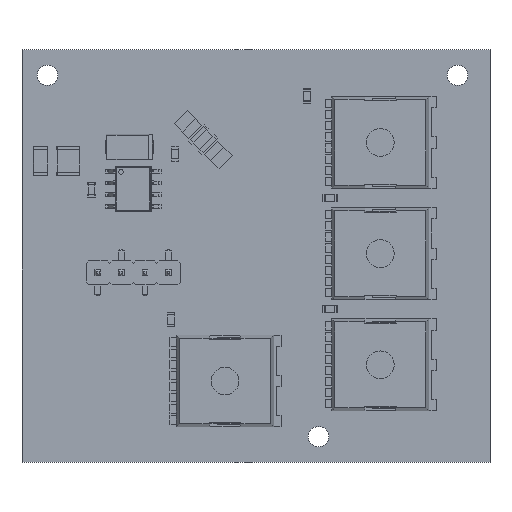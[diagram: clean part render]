
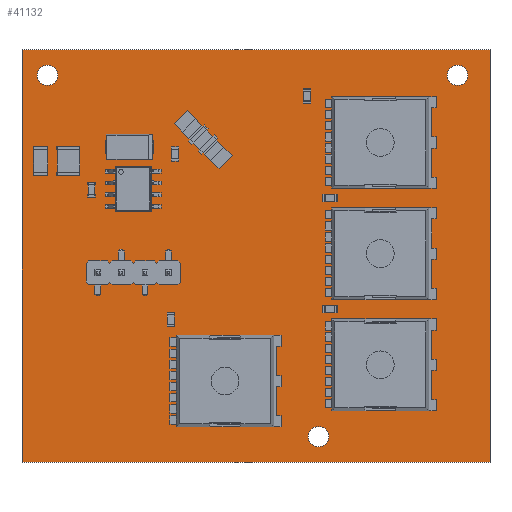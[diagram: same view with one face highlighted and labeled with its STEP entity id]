
A CAD part, top view. The second image highlights one B-rep face of the part: STEP entity #41132.
In plain terms, the highlighted planar face has unit normal (0, 0, 1).
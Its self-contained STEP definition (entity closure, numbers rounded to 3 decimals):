
#40752 = VERTEX_POINT('',#40753);
#40753 = CARTESIAN_POINT('',(164.5,-151.5,1.6));
#40760 = PLANE('',#40761);
#40761 = AXIS2_PLACEMENT_3D('',#40762,#40763,#40764);
#40762 = CARTESIAN_POINT('',(164.5,-151.5,0.));
#40763 = DIRECTION('',(0.,1.,0.));
#40764 = DIRECTION('',(1.,0.,0.));
#40772 = PLANE('',#40773);
#40773 = AXIS2_PLACEMENT_3D('',#40774,#40775,#40776);
#40774 = CARTESIAN_POINT('',(164.5,-107.,0.));
#40775 = DIRECTION('',(1.,0.,0.));
#40776 = DIRECTION('',(0.,-1.,0.));
#40784 = EDGE_CURVE('',#40752,#40785,#40787,.T.);
#40785 = VERTEX_POINT('',#40786);
#40786 = CARTESIAN_POINT('',(215.,-151.5,1.6));
#40787 = SURFACE_CURVE('',#40788,(#40792,#40799),.PCURVE_S1.);
#40788 = LINE('',#40789,#40790);
#40789 = CARTESIAN_POINT('',(164.5,-151.5,1.6));
#40790 = VECTOR('',#40791,1.);
#40791 = DIRECTION('',(1.,0.,0.));
#40792 = PCURVE('',#40760,#40793);
#40793 = DEFINITIONAL_REPRESENTATION('',(#40794),#40798);
#40794 = LINE('',#40795,#40796);
#40795 = CARTESIAN_POINT('',(0.,-1.6));
#40796 = VECTOR('',#40797,1.);
#40797 = DIRECTION('',(1.,0.));
#40798 = ( GEOMETRIC_REPRESENTATION_CONTEXT(2) 
PARAMETRIC_REPRESENTATION_CONTEXT() REPRESENTATION_CONTEXT('2D SPACE',''
  ) );
#40799 = PCURVE('',#40800,#40805);
#40800 = PLANE('',#40801);
#40801 = AXIS2_PLACEMENT_3D('',#40802,#40803,#40804);
#40802 = CARTESIAN_POINT('',(189.75,-129.25,1.6));
#40803 = DIRECTION('',(0.,0.,1.));
#40804 = DIRECTION('',(1.,0.,0.));
#40805 = DEFINITIONAL_REPRESENTATION('',(#40806),#40810);
#40806 = LINE('',#40807,#40808);
#40807 = CARTESIAN_POINT('',(-25.25,-22.25));
#40808 = VECTOR('',#40809,1.);
#40809 = DIRECTION('',(1.,0.));
#40810 = ( GEOMETRIC_REPRESENTATION_CONTEXT(2) 
PARAMETRIC_REPRESENTATION_CONTEXT() REPRESENTATION_CONTEXT('2D SPACE',''
  ) );
#40828 = PLANE('',#40829);
#40829 = AXIS2_PLACEMENT_3D('',#40830,#40831,#40832);
#40830 = CARTESIAN_POINT('',(215.,-151.5,0.));
#40831 = DIRECTION('',(-1.,0.,0.));
#40832 = DIRECTION('',(0.,1.,0.));
#40872 = VERTEX_POINT('',#40873);
#40873 = CARTESIAN_POINT('',(164.5,-107.,1.6));
#40887 = PLANE('',#40888);
#40888 = AXIS2_PLACEMENT_3D('',#40889,#40890,#40891);
#40889 = CARTESIAN_POINT('',(215.,-107.,0.));
#40890 = DIRECTION('',(0.,-1.,0.));
#40891 = DIRECTION('',(-1.,0.,0.));
#40899 = EDGE_CURVE('',#40872,#40752,#40900,.T.);
#40900 = SURFACE_CURVE('',#40901,(#40905,#40912),.PCURVE_S1.);
#40901 = LINE('',#40902,#40903);
#40902 = CARTESIAN_POINT('',(164.5,-107.,1.6));
#40903 = VECTOR('',#40904,1.);
#40904 = DIRECTION('',(0.,-1.,0.));
#40905 = PCURVE('',#40772,#40906);
#40906 = DEFINITIONAL_REPRESENTATION('',(#40907),#40911);
#40907 = LINE('',#40908,#40909);
#40908 = CARTESIAN_POINT('',(0.,-1.6));
#40909 = VECTOR('',#40910,1.);
#40910 = DIRECTION('',(1.,0.));
#40911 = ( GEOMETRIC_REPRESENTATION_CONTEXT(2) 
PARAMETRIC_REPRESENTATION_CONTEXT() REPRESENTATION_CONTEXT('2D SPACE',''
  ) );
#40912 = PCURVE('',#40800,#40913);
#40913 = DEFINITIONAL_REPRESENTATION('',(#40914),#40918);
#40914 = LINE('',#40915,#40916);
#40915 = CARTESIAN_POINT('',(-25.25,22.25));
#40916 = VECTOR('',#40917,1.);
#40917 = DIRECTION('',(0.,-1.));
#40918 = ( GEOMETRIC_REPRESENTATION_CONTEXT(2) 
PARAMETRIC_REPRESENTATION_CONTEXT() REPRESENTATION_CONTEXT('2D SPACE',''
  ) );
#40946 = EDGE_CURVE('',#40785,#40947,#40949,.T.);
#40947 = VERTEX_POINT('',#40948);
#40948 = CARTESIAN_POINT('',(215.,-107.,1.6));
#40949 = SURFACE_CURVE('',#40950,(#40954,#40961),.PCURVE_S1.);
#40950 = LINE('',#40951,#40952);
#40951 = CARTESIAN_POINT('',(215.,-151.5,1.6));
#40952 = VECTOR('',#40953,1.);
#40953 = DIRECTION('',(0.,1.,0.));
#40954 = PCURVE('',#40828,#40955);
#40955 = DEFINITIONAL_REPRESENTATION('',(#40956),#40960);
#40956 = LINE('',#40957,#40958);
#40957 = CARTESIAN_POINT('',(0.,-1.6));
#40958 = VECTOR('',#40959,1.);
#40959 = DIRECTION('',(1.,0.));
#40960 = ( GEOMETRIC_REPRESENTATION_CONTEXT(2) 
PARAMETRIC_REPRESENTATION_CONTEXT() REPRESENTATION_CONTEXT('2D SPACE',''
  ) );
#40961 = PCURVE('',#40800,#40962);
#40962 = DEFINITIONAL_REPRESENTATION('',(#40963),#40967);
#40963 = LINE('',#40964,#40965);
#40964 = CARTESIAN_POINT('',(25.25,-22.25));
#40965 = VECTOR('',#40966,1.);
#40966 = DIRECTION('',(0.,1.));
#40967 = ( GEOMETRIC_REPRESENTATION_CONTEXT(2) 
PARAMETRIC_REPRESENTATION_CONTEXT() REPRESENTATION_CONTEXT('2D SPACE',''
  ) );
#41059 = CYLINDRICAL_SURFACE('',#41060,1.1);
#41060 = AXIS2_PLACEMENT_3D('',#41061,#41062,#41063);
#41061 = CARTESIAN_POINT('',(196.5,-148.75,-0.8));
#41062 = DIRECTION('',(0.,0.,1.));
#41063 = DIRECTION('',(1.,0.,0.));
#41090 = CYLINDRICAL_SURFACE('',#41091,1.1);
#41091 = AXIS2_PLACEMENT_3D('',#41092,#41093,#41094);
#41092 = CARTESIAN_POINT('',(167.25,-109.75,-0.8));
#41093 = DIRECTION('',(0.,0.,1.));
#41094 = DIRECTION('',(1.,0.,0.));
#41121 = CYLINDRICAL_SURFACE('',#41122,1.1);
#41122 = AXIS2_PLACEMENT_3D('',#41123,#41124,#41125);
#41123 = CARTESIAN_POINT('',(211.5,-109.75,-0.8));
#41124 = DIRECTION('',(0.,0.,1.));
#41125 = DIRECTION('',(1.,0.,0.));
#41132 = ADVANCED_FACE('',(#41133,#41159,#41185,#41211),#40800,.T.);
#41133 = FACE_BOUND('',#41134,.T.);
#41134 = EDGE_LOOP('',(#41135,#41136,#41137,#41158));
#41135 = ORIENTED_EDGE('',*,*,#40784,.T.);
#41136 = ORIENTED_EDGE('',*,*,#40946,.T.);
#41137 = ORIENTED_EDGE('',*,*,#41138,.T.);
#41138 = EDGE_CURVE('',#40947,#40872,#41139,.T.);
#41139 = SURFACE_CURVE('',#41140,(#41144,#41151),.PCURVE_S1.);
#41140 = LINE('',#41141,#41142);
#41141 = CARTESIAN_POINT('',(215.,-107.,1.6));
#41142 = VECTOR('',#41143,1.);
#41143 = DIRECTION('',(-1.,0.,0.));
#41144 = PCURVE('',#40800,#41145);
#41145 = DEFINITIONAL_REPRESENTATION('',(#41146),#41150);
#41146 = LINE('',#41147,#41148);
#41147 = CARTESIAN_POINT('',(25.25,22.25));
#41148 = VECTOR('',#41149,1.);
#41149 = DIRECTION('',(-1.,0.));
#41150 = ( GEOMETRIC_REPRESENTATION_CONTEXT(2) 
PARAMETRIC_REPRESENTATION_CONTEXT() REPRESENTATION_CONTEXT('2D SPACE',''
  ) );
#41151 = PCURVE('',#40887,#41152);
#41152 = DEFINITIONAL_REPRESENTATION('',(#41153),#41157);
#41153 = LINE('',#41154,#41155);
#41154 = CARTESIAN_POINT('',(0.,-1.6));
#41155 = VECTOR('',#41156,1.);
#41156 = DIRECTION('',(1.,0.));
#41157 = ( GEOMETRIC_REPRESENTATION_CONTEXT(2) 
PARAMETRIC_REPRESENTATION_CONTEXT() REPRESENTATION_CONTEXT('2D SPACE',''
  ) );
#41158 = ORIENTED_EDGE('',*,*,#40899,.T.);
#41159 = FACE_BOUND('',#41160,.T.);
#41160 = EDGE_LOOP('',(#41161));
#41161 = ORIENTED_EDGE('',*,*,#41162,.F.);
#41162 = EDGE_CURVE('',#41163,#41163,#41165,.T.);
#41163 = VERTEX_POINT('',#41164);
#41164 = CARTESIAN_POINT('',(212.6,-109.75,1.6));
#41165 = SURFACE_CURVE('',#41166,(#41171,#41178),.PCURVE_S1.);
#41166 = CIRCLE('',#41167,1.1);
#41167 = AXIS2_PLACEMENT_3D('',#41168,#41169,#41170);
#41168 = CARTESIAN_POINT('',(211.5,-109.75,1.6));
#41169 = DIRECTION('',(0.,0.,1.));
#41170 = DIRECTION('',(1.,0.,0.));
#41171 = PCURVE('',#40800,#41172);
#41172 = DEFINITIONAL_REPRESENTATION('',(#41173),#41177);
#41173 = CIRCLE('',#41174,1.1);
#41174 = AXIS2_PLACEMENT_2D('',#41175,#41176);
#41175 = CARTESIAN_POINT('',(21.75,19.5));
#41176 = DIRECTION('',(1.,0.));
#41177 = ( GEOMETRIC_REPRESENTATION_CONTEXT(2) 
PARAMETRIC_REPRESENTATION_CONTEXT() REPRESENTATION_CONTEXT('2D SPACE',''
  ) );
#41178 = PCURVE('',#41121,#41179);
#41179 = DEFINITIONAL_REPRESENTATION('',(#41180),#41184);
#41180 = LINE('',#41181,#41182);
#41181 = CARTESIAN_POINT('',(0.,2.4));
#41182 = VECTOR('',#41183,1.);
#41183 = DIRECTION('',(1.,0.));
#41184 = ( GEOMETRIC_REPRESENTATION_CONTEXT(2) 
PARAMETRIC_REPRESENTATION_CONTEXT() REPRESENTATION_CONTEXT('2D SPACE',''
  ) );
#41185 = FACE_BOUND('',#41186,.T.);
#41186 = EDGE_LOOP('',(#41187));
#41187 = ORIENTED_EDGE('',*,*,#41188,.F.);
#41188 = EDGE_CURVE('',#41189,#41189,#41191,.T.);
#41189 = VERTEX_POINT('',#41190);
#41190 = CARTESIAN_POINT('',(197.6,-148.75,1.6));
#41191 = SURFACE_CURVE('',#41192,(#41197,#41204),.PCURVE_S1.);
#41192 = CIRCLE('',#41193,1.1);
#41193 = AXIS2_PLACEMENT_3D('',#41194,#41195,#41196);
#41194 = CARTESIAN_POINT('',(196.5,-148.75,1.6));
#41195 = DIRECTION('',(0.,0.,1.));
#41196 = DIRECTION('',(1.,0.,0.));
#41197 = PCURVE('',#40800,#41198);
#41198 = DEFINITIONAL_REPRESENTATION('',(#41199),#41203);
#41199 = CIRCLE('',#41200,1.1);
#41200 = AXIS2_PLACEMENT_2D('',#41201,#41202);
#41201 = CARTESIAN_POINT('',(6.75,-19.5));
#41202 = DIRECTION('',(1.,0.));
#41203 = ( GEOMETRIC_REPRESENTATION_CONTEXT(2) 
PARAMETRIC_REPRESENTATION_CONTEXT() REPRESENTATION_CONTEXT('2D SPACE',''
  ) );
#41204 = PCURVE('',#41059,#41205);
#41205 = DEFINITIONAL_REPRESENTATION('',(#41206),#41210);
#41206 = LINE('',#41207,#41208);
#41207 = CARTESIAN_POINT('',(0.,2.4));
#41208 = VECTOR('',#41209,1.);
#41209 = DIRECTION('',(1.,0.));
#41210 = ( GEOMETRIC_REPRESENTATION_CONTEXT(2) 
PARAMETRIC_REPRESENTATION_CONTEXT() REPRESENTATION_CONTEXT('2D SPACE',''
  ) );
#41211 = FACE_BOUND('',#41212,.T.);
#41212 = EDGE_LOOP('',(#41213));
#41213 = ORIENTED_EDGE('',*,*,#41214,.F.);
#41214 = EDGE_CURVE('',#41215,#41215,#41217,.T.);
#41215 = VERTEX_POINT('',#41216);
#41216 = CARTESIAN_POINT('',(168.35,-109.75,1.6));
#41217 = SURFACE_CURVE('',#41218,(#41223,#41230),.PCURVE_S1.);
#41218 = CIRCLE('',#41219,1.1);
#41219 = AXIS2_PLACEMENT_3D('',#41220,#41221,#41222);
#41220 = CARTESIAN_POINT('',(167.25,-109.75,1.6));
#41221 = DIRECTION('',(0.,0.,1.));
#41222 = DIRECTION('',(1.,0.,0.));
#41223 = PCURVE('',#40800,#41224);
#41224 = DEFINITIONAL_REPRESENTATION('',(#41225),#41229);
#41225 = CIRCLE('',#41226,1.1);
#41226 = AXIS2_PLACEMENT_2D('',#41227,#41228);
#41227 = CARTESIAN_POINT('',(-22.5,19.5));
#41228 = DIRECTION('',(1.,0.));
#41229 = ( GEOMETRIC_REPRESENTATION_CONTEXT(2) 
PARAMETRIC_REPRESENTATION_CONTEXT() REPRESENTATION_CONTEXT('2D SPACE',''
  ) );
#41230 = PCURVE('',#41090,#41231);
#41231 = DEFINITIONAL_REPRESENTATION('',(#41232),#41236);
#41232 = LINE('',#41233,#41234);
#41233 = CARTESIAN_POINT('',(0.,2.4));
#41234 = VECTOR('',#41235,1.);
#41235 = DIRECTION('',(1.,0.));
#41236 = ( GEOMETRIC_REPRESENTATION_CONTEXT(2) 
PARAMETRIC_REPRESENTATION_CONTEXT() REPRESENTATION_CONTEXT('2D SPACE',''
  ) );
